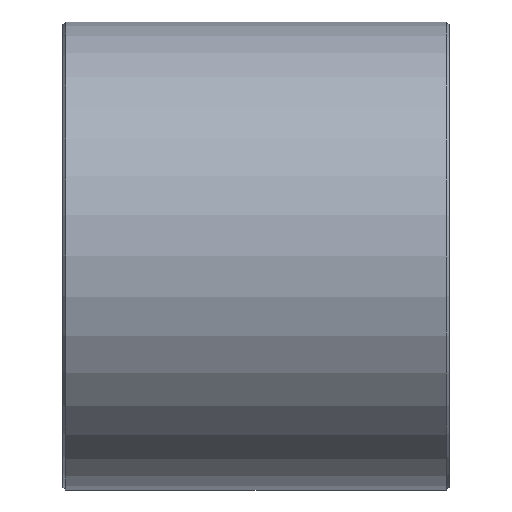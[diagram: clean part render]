
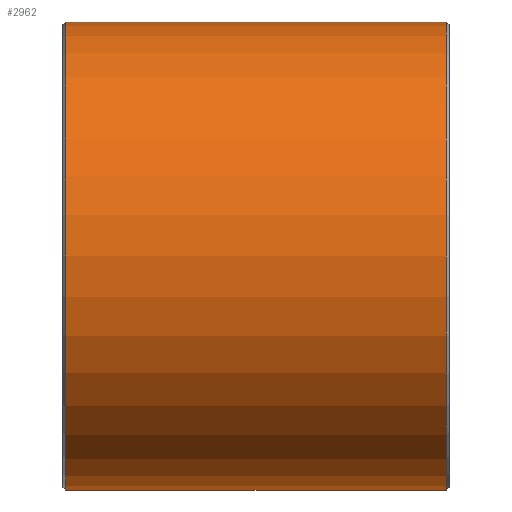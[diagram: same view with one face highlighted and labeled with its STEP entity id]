
A CAD part, front view. The second image highlights one B-rep face of the part: STEP entity #2962.
In plain terms, the highlighted cylindrical face has radius 40 mm (diameter 80 mm), a partial arc.
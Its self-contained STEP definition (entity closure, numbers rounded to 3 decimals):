
#92=DIRECTION('',(1.,0.,0.));
#93=VECTOR('',#92,65.);
#94=CARTESIAN_POINT('',(-32.5,0.,
-40.));
#95=LINE('',#94,#93);
#145=CARTESIAN_POINT('',(32.5,0.,0.));
#146=DIRECTION('',(1.,0.,0.));
#147=DIRECTION('',(0.,0.,1.));
#148=AXIS2_PLACEMENT_3D('',#145,#146,#147);
#150=CARTESIAN_POINT('',(-32.5,0.,0.));
#151=DIRECTION('',(-1.,0.,0.));
#152=DIRECTION('',(0.,0.,-1.));
#153=AXIS2_PLACEMENT_3D('',#150,#151,#152);
#155=DIRECTION('',(1.,0.,0.));
#156=VECTOR('',#155,65.);
#157=CARTESIAN_POINT('',(-32.5,0.,
40.));
#158=LINE('',#157,#156);
#2829=CARTESIAN_POINT('',(32.5,0.,40.));
#2830=CARTESIAN_POINT('',(32.5,0.,-40.));
#2831=VERTEX_POINT('',#2829);
#2832=VERTEX_POINT('',#2830);
#2837=CARTESIAN_POINT('',(-32.5,0.,-40.));
#2838=CARTESIAN_POINT('',(-32.5,0.,40.));
#2839=VERTEX_POINT('',#2837);
#2840=VERTEX_POINT('',#2838);
#2951=CARTESIAN_POINT('',(-33.,0.,0.));
#2952=DIRECTION('',(1.,0.,0.));
#2953=DIRECTION('',(0.,0.,-1.));
#2954=AXIS2_PLACEMENT_3D('',#2951,#2952,#2953);
#2955=CYLINDRICAL_SURFACE('',#2954,40.);
#2956=ORIENTED_EDGE('',*,*,#2945,.T.);
#2957=ORIENTED_EDGE('',*,*,#2899,.F.);
#2958=ORIENTED_EDGE('',*,*,#2869,.T.);
#2959=ORIENTED_EDGE('',*,*,#2896,.T.);
#2960=EDGE_LOOP('',(#2956,#2957,#2958,#2959));
#2961=FACE_OUTER_BOUND('',#2960,.F.);
#2962=ADVANCED_FACE('',(#2961),#2955,.T.);
#149=CIRCLE('',#148,40.);
#154=CIRCLE('',#153,40.);
#2869=EDGE_CURVE('',#2839,#2840,#154,.T.);
#2896=EDGE_CURVE('',#2840,#2831,#158,.T.);
#2899=EDGE_CURVE('',#2839,#2832,#95,.T.);
#2945=EDGE_CURVE('',#2831,#2832,#149,.T.);
